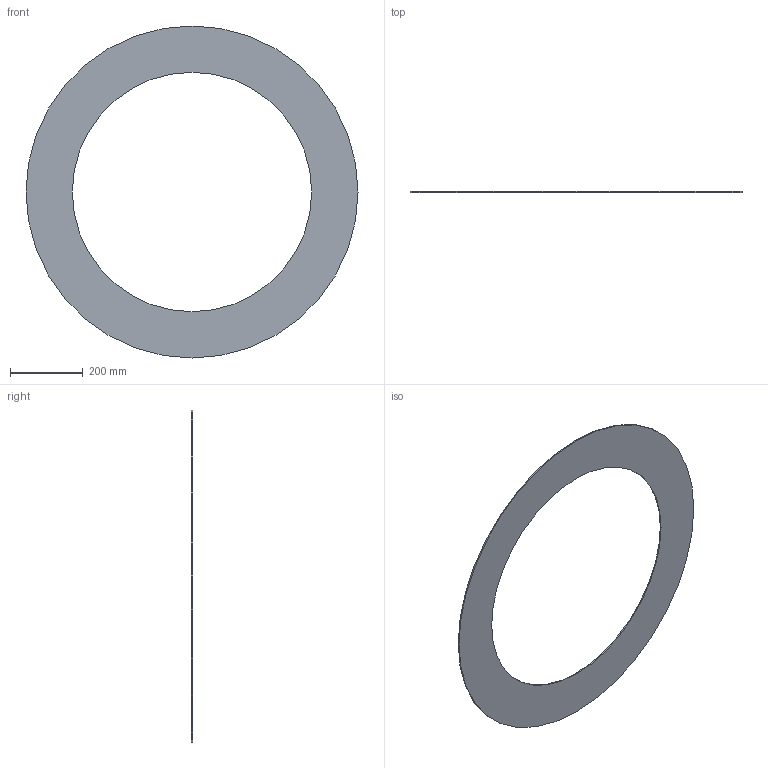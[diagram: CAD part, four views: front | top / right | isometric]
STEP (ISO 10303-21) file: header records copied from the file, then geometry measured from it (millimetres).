
FILE_DESCRIPTION(/* description */ ('Unknown'),/* implementation_level */ '2;1');
FILE_NAME(/* name */ 'GUA.800C',/* time_stamp */ '2021-04-01T14:34:49+02:00',/* author */ ('Unknown'),/* organization */ ('Unknown'),/* preprocessor_version */ 'ST-DEVELOPER v16.7',/* originating_system */ 'Solid Edge',/* authorisation */ 'Unknown');
FILE_SCHEMA (('AUTOMOTIVE_DESIGN {1 0 10303 214 3 1 1}'));
Length unit declared in the file: millimetre
Products named in the file (1): GUA.800C
Bounding box: 911 x 3 x 911 mm (x, y, z)
Volume: 938406.3 mm3; surface area: 640382.2 mm2
Topology: 1 solids, 1 shells, 4 faces, 6 edges, 4 vertices
Faces by surface type: cylinder 2, plane 2
Full cylindrical faces by diameter (mm): 657 x1, 911 x1
Entity records: 118 total; most frequent: DIRECTION 18, CARTESIAN_POINT 13, AXIS2_PLACEMENT_3D 9, ORIENTED_EDGE 8, EDGE_LOOP 8, FACE_BOUND 8, EDGE_CURVE 4, VERTEX_POINT 4
